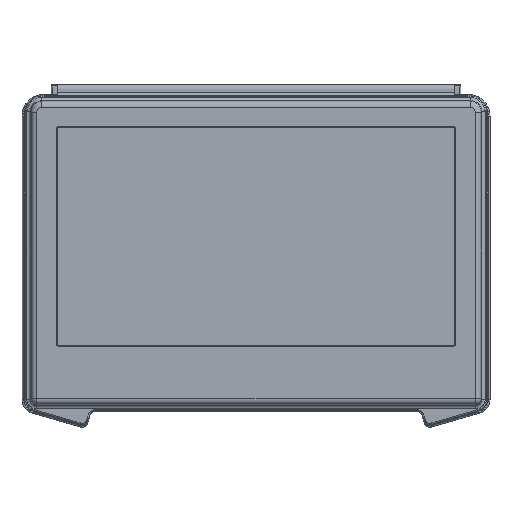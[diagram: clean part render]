
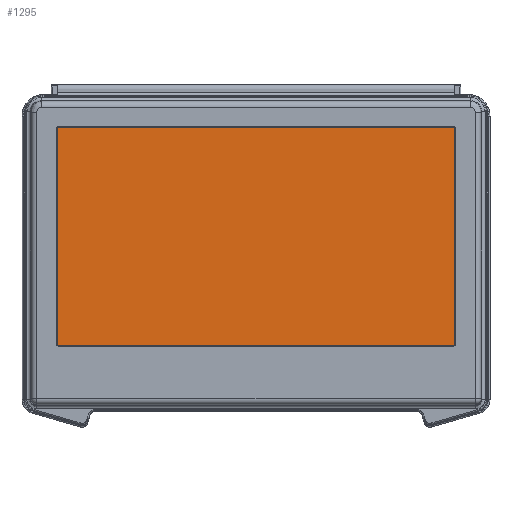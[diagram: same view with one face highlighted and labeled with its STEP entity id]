
A CAD part, top view. The second image highlights one B-rep face of the part: STEP entity #1295.
In plain terms, the highlighted planar face has unit normal (0, 0, 1).
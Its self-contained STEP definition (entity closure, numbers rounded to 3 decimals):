
#527=B_SPLINE_CURVE_WITH_KNOTS('',3,(#14021,#14022,#14023,#14024,#14025,
#14026,#14027,#14028,#14029,#14030),.UNSPECIFIED.,.F.,.F.,(4,2,2,2,4),(0.,
0.25,0.5,0.75,1.),.UNSPECIFIED.);
#528=B_SPLINE_CURVE_WITH_KNOTS('',3,(#14035,#14036,#14037,#14038),
 .UNSPECIFIED.,.F.,.F.,(4,4),(0.,1.),.UNSPECIFIED.);
#529=B_SPLINE_CURVE_WITH_KNOTS('',3,(#14042,#14043,#14044,#14045),
 .UNSPECIFIED.,.F.,.F.,(4,4),(0.,1.),.UNSPECIFIED.);
#530=B_SPLINE_CURVE_WITH_KNOTS('',3,(#14049,#14050,#14051,#14052,#14053,
#14054,#14055,#14056,#14057,#14058),.UNSPECIFIED.,.F.,.F.,(4,2,2,2,4),(0.,
0.25,0.5,0.75,1.),.UNSPECIFIED.);
#1295=ADVANCED_FACE('',(#1943),#1631,.F.);
#1631=PLANE('',#8628);
#1943=FACE_OUTER_BOUND('',#2450,.T.);
#2450=EDGE_LOOP('',(#4041,#4042,#4043,#4044,#4045,#4046,#4047,#4048));
#4041=ORIENTED_EDGE('',*,*,#6553,.F.);
#4042=ORIENTED_EDGE('',*,*,#6554,.F.);
#4043=ORIENTED_EDGE('',*,*,#6555,.T.);
#4044=ORIENTED_EDGE('',*,*,#6556,.T.);
#4045=ORIENTED_EDGE('',*,*,#6557,.T.);
#4046=ORIENTED_EDGE('',*,*,#6558,.F.);
#4047=ORIENTED_EDGE('',*,*,#6559,.F.);
#4048=ORIENTED_EDGE('',*,*,#6560,.F.);
#5593=VERTEX_POINT('',#14031);
#5594=VERTEX_POINT('',#14032);
#5595=VERTEX_POINT('',#14034);
#5596=VERTEX_POINT('',#14039);
#5597=VERTEX_POINT('',#14041);
#5598=VERTEX_POINT('',#14046);
#5599=VERTEX_POINT('',#14048);
#5600=VERTEX_POINT('',#14059);
#6553=EDGE_CURVE('',#5593,#5594,#527,.T.);
#6554=EDGE_CURVE('',#5595,#5593,#7435,.T.);
#6555=EDGE_CURVE('',#5595,#5596,#528,.T.);
#6556=EDGE_CURVE('',#5596,#5597,#7436,.T.);
#6557=EDGE_CURVE('',#5597,#5598,#529,.T.);
#6558=EDGE_CURVE('',#5599,#5598,#7437,.T.);
#6559=EDGE_CURVE('',#5600,#5599,#530,.T.);
#6560=EDGE_CURVE('',#5594,#5600,#7438,.T.);
#7435=LINE('',#14033,#8024);
#7436=LINE('',#14040,#8025);
#7437=LINE('',#14047,#8026);
#7438=LINE('',#14060,#8027);
#8024=VECTOR('',#10295,1.);
#8025=VECTOR('',#10296,1.);
#8026=VECTOR('',#10297,1.);
#8027=VECTOR('',#10298,1.);
#8628=AXIS2_PLACEMENT_3D('',#14061,#10299,#10300);
#10295=DIRECTION('',(-1.,0.,0.));
#10296=DIRECTION('',(0.,1.,0.));
#10297=DIRECTION('',(1.,0.,0.));
#10298=DIRECTION('',(0.,1.,0.));
#10299=DIRECTION('',(0.,0.,-1.));
#10300=DIRECTION('',(-1.,0.,0.));
#14021=CARTESIAN_POINT('',(-165.727,-215.52,19.8));
#14022=CARTESIAN_POINT('',(-165.911,-215.52,19.8));
#14023=CARTESIAN_POINT('',(-166.106,-215.503,19.8));
#14024=CARTESIAN_POINT('',(-166.646,-215.28,19.8));
#14025=CARTESIAN_POINT('',(-166.817,-215.132,19.8));
#14026=CARTESIAN_POINT('',(-167.032,-214.917,19.8));
#14027=CARTESIAN_POINT('',(-167.192,-214.715,19.8));
#14028=CARTESIAN_POINT('',(-167.391,-214.236,19.8));
#14029=CARTESIAN_POINT('',(-167.42,-214.011,19.8));
#14030=CARTESIAN_POINT('',(-167.42,-213.827,19.8));
#14031=CARTESIAN_POINT('',(-165.727,-215.52,19.8));
#14032=CARTESIAN_POINT('',(-167.42,-213.827,19.8));
#14033=CARTESIAN_POINT('',(-167.8,-215.52,19.8));
#14034=CARTESIAN_POINT('',(165.727,-215.52,19.8));
#14035=CARTESIAN_POINT('',(165.727,-215.52,19.8));
#14036=CARTESIAN_POINT('',(166.626,-215.52,19.8));
#14037=CARTESIAN_POINT('',(167.42,-214.728,19.8));
#14038=CARTESIAN_POINT('',(167.42,-213.827,19.8));
#14039=CARTESIAN_POINT('',(167.42,-213.827,19.8));
#14040=CARTESIAN_POINT('',(167.42,-31.5,19.8));
#14041=CARTESIAN_POINT('',(167.42,-33.573,19.8));
#14042=CARTESIAN_POINT('',(167.42,-33.573,19.8));
#14043=CARTESIAN_POINT('',(167.42,-32.674,19.8));
#14044=CARTESIAN_POINT('',(166.628,-31.88,19.8));
#14045=CARTESIAN_POINT('',(165.727,-31.88,19.8));
#14046=CARTESIAN_POINT('',(165.727,-31.88,19.8));
#14047=CARTESIAN_POINT('',(-167.8,-31.88,19.8));
#14048=CARTESIAN_POINT('',(-165.727,-31.88,19.8));
#14049=CARTESIAN_POINT('',(-167.42,-33.573,19.8));
#14050=CARTESIAN_POINT('',(-167.42,-33.389,19.8));
#14051=CARTESIAN_POINT('',(-167.403,-33.194,19.8));
#14052=CARTESIAN_POINT('',(-167.18,-32.654,19.8));
#14053=CARTESIAN_POINT('',(-167.032,-32.483,19.8));
#14054=CARTESIAN_POINT('',(-166.817,-32.268,19.8));
#14055=CARTESIAN_POINT('',(-166.615,-32.108,19.8));
#14056=CARTESIAN_POINT('',(-166.136,-31.909,19.8));
#14057=CARTESIAN_POINT('',(-165.911,-31.88,19.8));
#14058=CARTESIAN_POINT('',(-165.727,-31.88,19.8));
#14059=CARTESIAN_POINT('',(-167.42,-33.573,19.8));
#14060=CARTESIAN_POINT('',(-167.42,-31.5,19.8));
#14061=CARTESIAN_POINT('',(-167.8,-31.5,19.8));
